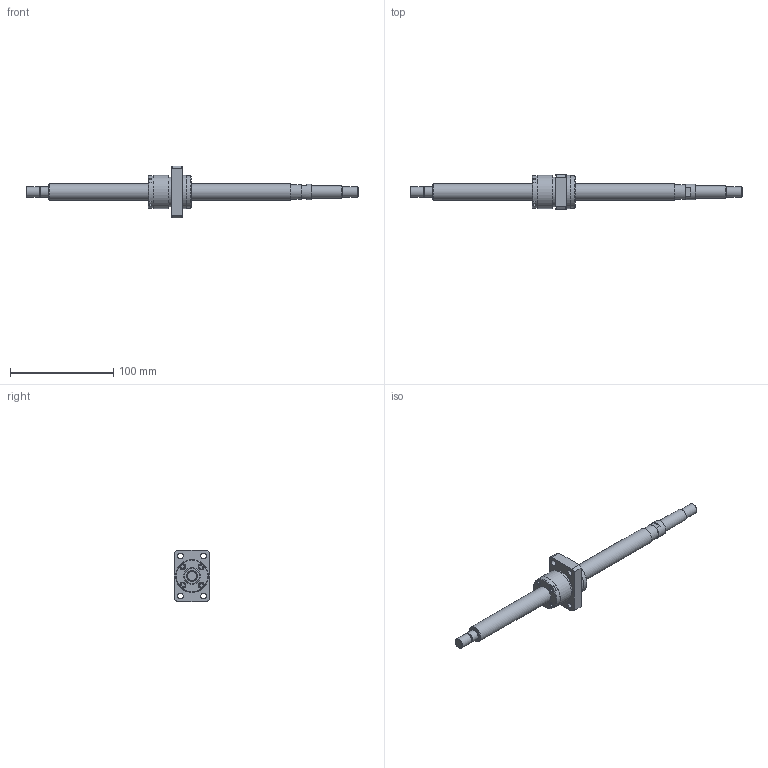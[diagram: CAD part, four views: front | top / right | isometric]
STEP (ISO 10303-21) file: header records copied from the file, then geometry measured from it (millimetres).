
FILE_DESCRIPTION(/* description */ ('STEP AP203'),/* implementation_level */ '2;1');
FILE_NAME(/* name */ 'BNK1616-3.6G0+321LC5Y(1380)',/* time_stamp */ '2024-07-09T09:29:05+02:00',/* author */ ('License CC BY-ND 4.0'),/* organization */ ('CADENAS'),/* preprocessor_version */ 'ST-DEVELOPER v19.3',/* originating_system */ 'PARTsolutions',/* authorisation */ ' ');
FILE_SCHEMA (('CONFIG_CONTROL_DESIGN'));
Length unit declared in the file: millimetre
Products named in the file (3): BNK1616-3.6G0+321LC5Y(1380); BNK 1616-3.6G0+321LC5Y Shaft; BNK 1616-3.6G0+321LC5Y0 Nut
Assembly tree (2 placements, depth 2):
  BNK1616-3.6G0+321LC5Y(1380)
    BNK 1616-3.6G0+321LC5Y Shaft
    BNK 1616-3.6G0+321LC5Y0 Nut
Bounding box: 321 x 34 x 50 mm (x, y, z)
Volume: 87866.3 mm3; surface area: 26750.8 mm2
Topology: 2 solids, 2 shells, 136 faces, 312 edges, 202 vertices
Faces by surface type: plane 75, cylinder 35, cone 20, torus 6
Full cylindrical faces by diameter (mm): 5.188 x1, 5.5 x8, 9.5 x4, 9.6 x1, 10 x3, 12 x1, 14 x1, 15 x1, 16 x2, 28.8 x1, 31.8 x2, 32 x2
Entity records: 3705 total; most frequent: CARTESIAN_POINT 676, DIRECTION 626, ORIENTED_EDGE 530, EDGE_CURVE 265, AXIS2_PLACEMENT_3D 247, FACE_BOUND 210, EDGE_LOOP 209, VERTEX_POINT 197
